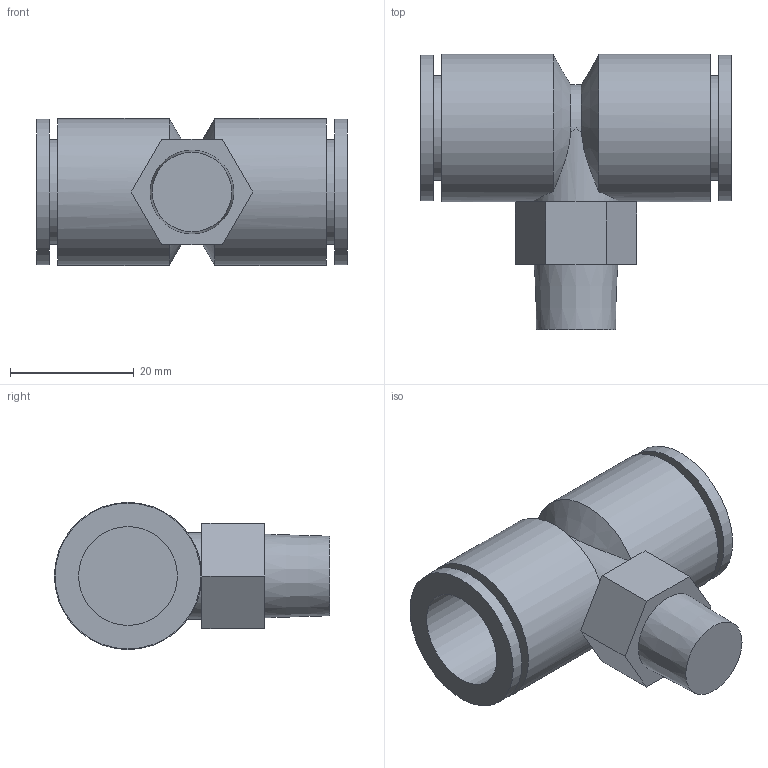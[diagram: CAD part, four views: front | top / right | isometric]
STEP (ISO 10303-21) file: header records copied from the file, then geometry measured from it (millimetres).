
FILE_DESCRIPTION(/* description */ ('STEP AP214'),/* implementation_level */ '2;1');
FILE_NAME(/* name */ 'KQ2T16-02AS',/* time_stamp */ '2024-10-24T14:02:24+02:00',/* author */ ('License CC BY-ND 4.0'),/* organization */ ('CADENAS'),/* preprocessor_version */ 'ST-DEVELOPER v19.3',/* originating_system */ 'PARTsolutions',/* authorisation */ ' ');
FILE_SCHEMA (('AUTOMOTIVE_DESIGN {1 0 10303 214 3 1 1}'));
Length unit declared in the file: millimetre
Products named in the file (1): KQ2T16-02AS
Bounding box: 50.2 x 44.5 x 23.8 mm (x, y, z)
Volume: 16414.5 mm3; surface area: 8920.1 mm2
Topology: 1 solids, 1 shells, 30 faces, 61 edges, 41 vertices
Faces by surface type: plane 17, cylinder 10, cone 3
Full cylindrical faces by diameter (mm): 14 x1, 16 x2, 16.95 x2, 23.6 x2, 23.8 x2
Entity records: 778 total; most frequent: CARTESIAN_POINT 149, DIRECTION 130, ORIENTED_EDGE 98, AXIS2_PLACEMENT_3D 56, EDGE_CURVE 49, EDGE_LOOP 48, FACE_BOUND 48, VERTEX_POINT 39
